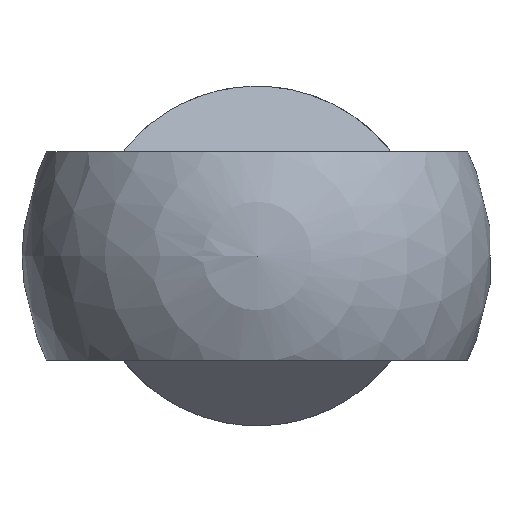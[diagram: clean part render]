
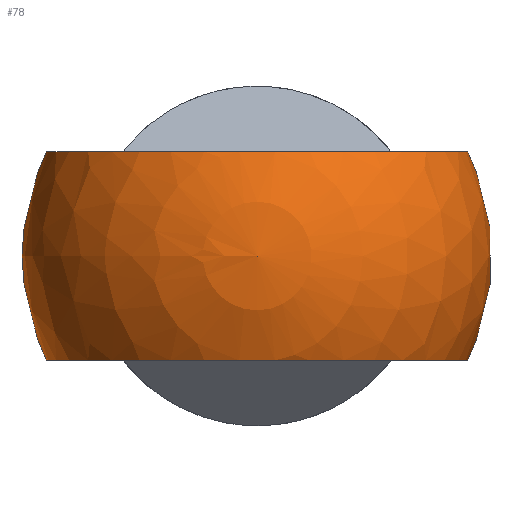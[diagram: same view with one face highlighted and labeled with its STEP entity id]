
A CAD part, left-side view. The second image highlights one B-rep face of the part: STEP entity #78.
In plain terms, the highlighted spherical face has radius 18 mm.
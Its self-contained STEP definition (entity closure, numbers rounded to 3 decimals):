
#78 = ADVANCED_FACE( '', ( #97, #98 ), #99, .T. );
#97 = FACE_BOUND( '', #131, .T. );
#98 = FACE_OUTER_BOUND( '', #132, .T. );
#99 = SPHERICAL_SURFACE( '', #133, 18. );
#131 = VERTEX_LOOP( '', #181 );
#132 = EDGE_LOOP( '', ( #182, #183, #184, #185 ) );
#133 = AXIS2_PLACEMENT_3D( '', #186, #187, #188 );
#181 = VERTEX_POINT( '', #245 );
#182 = ORIENTED_EDGE( '', *, *, #239, .F. );
#183 = ORIENTED_EDGE( '', *, *, #237, .T. );
#184 = ORIENTED_EDGE( '', *, *, #243, .F. );
#185 = ORIENTED_EDGE( '', *, *, #246, .T. );
#186 = CARTESIAN_POINT( '', ( 0., 0., 0. ) );
#187 = DIRECTION( '', ( 1., 0., 0. ) );
#188 = DIRECTION( '', ( 0., 1., 0. ) );
#237 = EDGE_CURVE( '', #257, #262, #264, .F. );
#239 = EDGE_CURVE( '', #257, #267, #268, .F. );
#243 = EDGE_CURVE( '', #273, #262, #275, .F. );
#245 = CARTESIAN_POINT( '', ( -18., 0., 0. ) );
#246 = EDGE_CURVE( '', #273, #267, #277, .F. );
#257 = VERTEX_POINT( '', #291 );
#262 = VERTEX_POINT( '', #298 );
#264 = CIRCLE( '', #301, 16.125 );
#267 = VERTEX_POINT( '', #304 );
#268 = CIRCLE( '', #305, 13. );
#273 = VERTEX_POINT( '', #311 );
#275 = CIRCLE( '', #314, 13. );
#277 = CIRCLE( '', #316, 16.125 );
#291 = CARTESIAN_POINT( '', ( 12.45, 10.247, -8. ) );
#298 = CARTESIAN_POINT( '', ( 12.45, -10.247, -8. ) );
#301 = AXIS2_PLACEMENT_3D( '', #336, #337, #338 );
#304 = CARTESIAN_POINT( '', ( 12.45, 10.247, 8. ) );
#305 = AXIS2_PLACEMENT_3D( '', #342, #343, #344 );
#311 = CARTESIAN_POINT( '', ( 12.45, -10.247, 8. ) );
#314 = AXIS2_PLACEMENT_3D( '', #350, #351, #352 );
#316 = AXIS2_PLACEMENT_3D( '', #356, #357, #358 );
#336 = CARTESIAN_POINT( '', ( 0., 0., -8. ) );
#337 = DIRECTION( '', ( 0., 0., -1. ) );
#338 = DIRECTION( '', ( -1., 0., 0. ) );
#342 = CARTESIAN_POINT( '', ( 12.45, 0., 0. ) );
#343 = DIRECTION( '', ( -1., 0., 0. ) );
#344 = DIRECTION( '', ( 0., -1., 0. ) );
#350 = CARTESIAN_POINT( '', ( 12.45, 0., 0. ) );
#351 = DIRECTION( '', ( -1., 0., 0. ) );
#352 = DIRECTION( '', ( 0., -1., 0. ) );
#356 = CARTESIAN_POINT( '', ( 0., 0., 8. ) );
#357 = DIRECTION( '', ( 0., 0., 1. ) );
#358 = DIRECTION( '', ( 1., 0., 0. ) );
